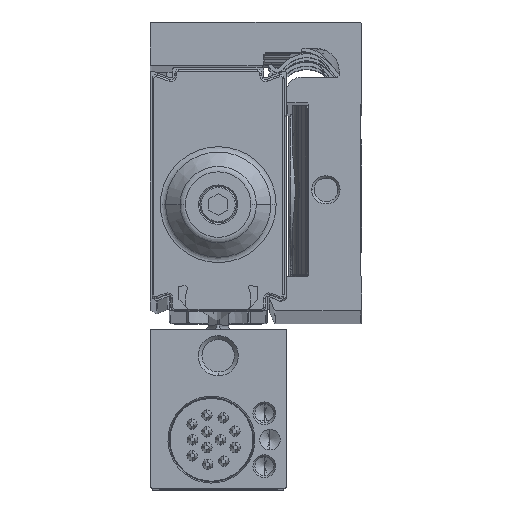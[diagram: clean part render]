
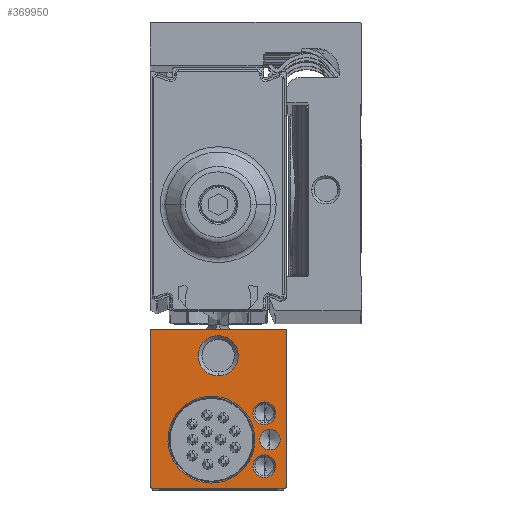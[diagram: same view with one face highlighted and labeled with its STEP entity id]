
A CAD part, top view. The second image highlights one B-rep face of the part: STEP entity #369950.
In plain terms, the highlighted planar face has unit normal (0, 0, 1).
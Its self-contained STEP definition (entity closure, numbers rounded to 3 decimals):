
#356490=CARTESIAN_POINT('',(-8.372,-16.475,1.));
#356500=VERTEX_POINT('',#356490);
#356620=CARTESIAN_POINT('',(-8.372,-19.225,1.));
#356630=VERTEX_POINT('',#356620);
#356660=CARTESIAN_POINT('',(-8.372,-17.85,1.));
#356670=DIRECTION('',(0.,0.,-1.));
#356680=DIRECTION('',(0.,1.,0.));
#356690=AXIS2_PLACEMENT_3D('',#356660,#356670,#356680);
#356700=CIRCLE('',#356690,1.375);
#356710=EDGE_CURVE('',#356630,#356500,#356700,.T.);
#357620=CARTESIAN_POINT('',(-6.372,-17.1,1.));
#357630=VERTEX_POINT('',#357620);
#357750=CARTESIAN_POINT('',(-3.372,-17.1,1.));
#357760=VERTEX_POINT('',#357750);
#357790=CARTESIAN_POINT('',(-4.872,-17.1,1.));
#357800=DIRECTION('',(0.,0.,-1.));
#357810=DIRECTION('',(-1.,0.,0.));
#357820=AXIS2_PLACEMENT_3D('',#357790,#357800,#357810);
#357830=CIRCLE('',#357820,1.5);
#357840=EDGE_CURVE('',#357760,#357630,#357830,.T.);
#358770=CARTESIAN_POINT('',(-10.372,-17.1,1.));
#358780=VERTEX_POINT('',#358770);
#358880=CARTESIAN_POINT('',(-13.372,-17.1,1.));
#358890=VERTEX_POINT('',#358880);
#358920=CARTESIAN_POINT('',(-11.872,-17.1,1.));
#358930=DIRECTION('',(0.,0.,-1.));
#358940=DIRECTION('',(-1.,0.,0.));
#358950=AXIS2_PLACEMENT_3D('',#358920,#358930,#358940);
#358960=CIRCLE('',#358950,1.5);
#358970=EDGE_CURVE('',#358890,#358780,#358960,.T.);
#365620=CARTESIAN_POINT('',(6.228,-20.,1.));
#365630=VERTEX_POINT('',#365620);
#365660=CARTESIAN_POINT('',(6.228,0.,1.));
#365670=DIRECTION('',(0.,1.,0.));
#365680=VECTOR('',#365670,1.);
#365690=LINE('',#365660,#365680);
#365700=CARTESIAN_POINT('',(6.228,-2.,1.));
#365710=VERTEX_POINT('',#365700);
#365720=EDGE_CURVE('',#365630,#365710,#365690,.T.);
#368960=CARTESIAN_POINT('',(-14.772,-2.,1.));
#368970=DIRECTION('',(0.,0.,1.));
#368980=DIRECTION('',(-1.,0.,0.));
#368990=AXIS2_PLACEMENT_3D('',#368960,#368970,#368980);
#369000=PLANE('',#368990);
#369010=EDGE_CURVE('',#357630,#357760,#357830,.T.);
#369020=ORIENTED_EDGE('',*,*,#369010,.T.);
#369030=ORIENTED_EDGE('',*,*,#357840,.T.);
#369040=EDGE_LOOP('',(#369030,#369020));
#369050=FACE_BOUND('',#369040,.T.);
#369060=EDGE_CURVE('',#358780,#358890,#358960,.T.);
#369070=ORIENTED_EDGE('',*,*,#369060,.T.);
#369080=ORIENTED_EDGE('',*,*,#358970,.T.);
#369090=EDGE_LOOP('',(#369080,#369070));
#369100=FACE_BOUND('',#369090,.T.);
#369110=EDGE_CURVE('',#356500,#356630,#356700,.T.);
#369120=ORIENTED_EDGE('',*,*,#369110,.T.);
#369130=ORIENTED_EDGE('',*,*,#356710,.T.);
#369140=EDGE_LOOP('',(#369130,#369120));
#369150=FACE_BOUND('',#369140,.T.);
#369160=CARTESIAN_POINT('',(-8.372,-10.1,1.));
#369170=DIRECTION('',(0.,0.,1.));
#369180=DIRECTION('',(1.,0.,0.));
#369190=AXIS2_PLACEMENT_3D('',#369160,#369170,#369180);
#369200=CIRCLE('',#369190,5.748);
#369210=CARTESIAN_POINT('',(-3.143,-7.714,1.));
#369220=VERTEX_POINT('',#369210);
#369230=CARTESIAN_POINT('',(-14.12,-10.1,1.));
#369240=VERTEX_POINT('',#369230);
#369250=EDGE_CURVE('',#369220,#369240,#369200,.T.);
#369260=ORIENTED_EDGE('',*,*,#369250,.F.);
#369270=CARTESIAN_POINT('',(-2.624,-10.1,1.));
#369280=VERTEX_POINT('',#369270);
#369290=EDGE_CURVE('',#369240,#369280,#369200,.T.);
#369300=ORIENTED_EDGE('',*,*,#369290,.F.);
#369310=EDGE_CURVE('',#369280,#369220,#369200,.T.);
#369320=ORIENTED_EDGE('',*,*,#369310,.F.);
#369330=EDGE_LOOP('',(#369320,#369300,#369260));
#369340=FACE_BOUND('',#369330,.T.);
#369350=CARTESIAN_POINT('',(2.728,-11.,1.));
#369360=DIRECTION('',(0.,0.,1.));
#369370=DIRECTION('',(1.,0.,0.));
#369380=AXIS2_PLACEMENT_3D('',#369350,#369360,#369370);
#369390=CIRCLE('',#369380,2.65);
#369400=CARTESIAN_POINT('',(2.728,-8.35,1.));
#369410=VERTEX_POINT('',#369400);
#369420=CARTESIAN_POINT('',(0.078,-11.,1.));
#369430=VERTEX_POINT('',#369420);
#369440=EDGE_CURVE('',#369410,#369430,#369390,.T.);
#369450=ORIENTED_EDGE('',*,*,#369440,.F.);
#369460=CARTESIAN_POINT('',(5.378,-11.,1.));
#369470=VERTEX_POINT('',#369460);
#369480=EDGE_CURVE('',#369430,#369470,#369390,.T.);
#369490=ORIENTED_EDGE('',*,*,#369480,.F.);
#369500=EDGE_CURVE('',#369470,#369410,#369390,.T.);
#369510=ORIENTED_EDGE('',*,*,#369500,.F.);
#369520=EDGE_LOOP('',(#369510,#369490,#369450));
#369530=FACE_BOUND('',#369520,.T.);
#369540=ORIENTED_EDGE('',*,*,#365720,.T.);
#369550=CARTESIAN_POINT('',(0.,-20.,1.));
#369560=DIRECTION('',(1.,0.,0.));
#369570=VECTOR('',#369560,1.);
#369580=LINE('',#369550,#369570);
#369590=CARTESIAN_POINT('',(-14.572,-20.,1.));
#369600=VERTEX_POINT('',#369590);
#369610=EDGE_CURVE('',#369600,#365630,#369580,.T.);
#369620=ORIENTED_EDGE('',*,*,#369610,.T.);
#369630=CARTESIAN_POINT('',(-34.572,0.,1.));
#369640=DIRECTION('',(-0.707,0.707,0.));
#369650=VECTOR('',#369640,1.);
#369660=LINE('',#369630,#369650);
#369670=CARTESIAN_POINT('',(-14.872,-19.7,1.));
#369680=VERTEX_POINT('',#369670);
#369690=EDGE_CURVE('',#369600,#369680,#369660,.T.);
#369700=ORIENTED_EDGE('',*,*,#369690,.F.);
#369710=CARTESIAN_POINT('',(-14.872,0.,1.));
#369720=DIRECTION('',(0.,1.,0.));
#369730=VECTOR('',#369720,1.);
#369740=LINE('',#369710,#369730);
#369750=CARTESIAN_POINT('',(-14.872,-2.3,1.));
#369760=VERTEX_POINT('',#369750);
#369770=EDGE_CURVE('',#369680,#369760,#369740,.T.);
#369780=ORIENTED_EDGE('',*,*,#369770,.F.);
#369790=CARTESIAN_POINT('',(-12.572,0.,1.));
#369800=DIRECTION('',(0.707,0.707,0.));
#369810=VECTOR('',#369800,1.);
#369820=LINE('',#369790,#369810);
#369830=CARTESIAN_POINT('',(-14.572,-2.,1.));
#369840=VERTEX_POINT('',#369830);
#369850=EDGE_CURVE('',#369760,#369840,#369820,.T.);
#369860=ORIENTED_EDGE('',*,*,#369850,.F.);
#369870=CARTESIAN_POINT('',(0.,-2.,1.));
#369880=DIRECTION('',(-1.,0.,0.));
#369890=VECTOR('',#369880,1.);
#369900=LINE('',#369870,#369890);
#369910=EDGE_CURVE('',#365710,#369840,#369900,.T.);
#369920=ORIENTED_EDGE('',*,*,#369910,.T.);
#369930=EDGE_LOOP('',(#369920,#369860,#369780,#369700,#369620,#369540));
#369940=FACE_OUTER_BOUND('',#369930,.T.);
#369950=ADVANCED_FACE('',(#369050,#369100,#369150,#369340,#369530,
#369940),#369000,.T.);
